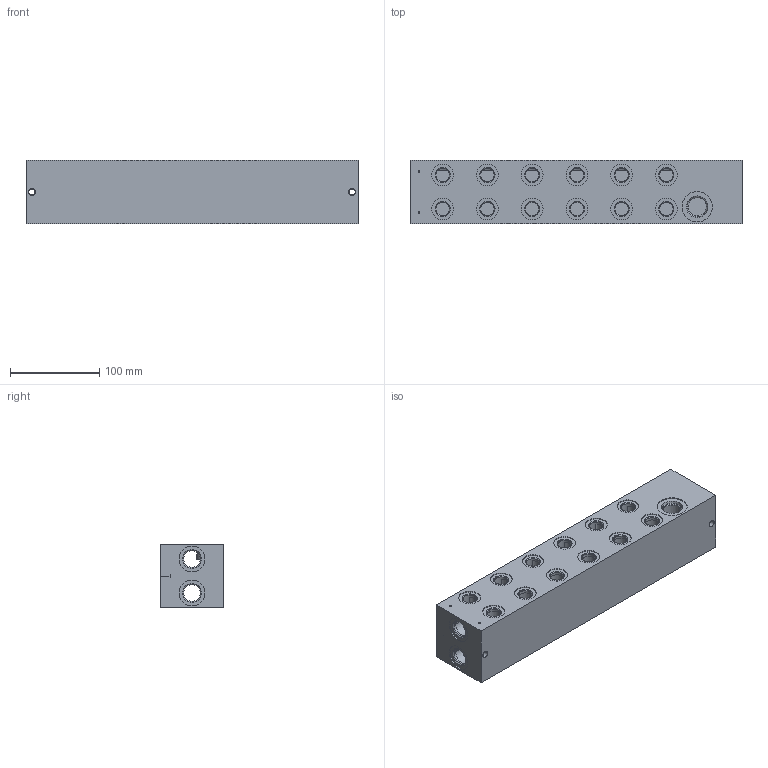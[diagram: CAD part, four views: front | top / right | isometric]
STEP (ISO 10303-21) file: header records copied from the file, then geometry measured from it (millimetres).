
FILE_DESCRIPTION((''),'2;1');
FILE_NAME('27564000','2015-11-27T',('Ahcz.brigadnik05'),(''),'PRO/ENGINEER BY PARAMETRIC TECHNOLOGY CORPORATION, 2015110','PRO/ENGINEER BY PARAMETRIC TECHNOLOGY CORPORATION, 2015110','');
FILE_SCHEMA(('AUTOMOTIVE_DESIGN { 1 0 10303 214 1 1 1 1 }'));
Length unit declared in the file: millimetre
Products named in the file (1): 27564000
Bounding box: 371 x 71 x 71 mm (x, y, z)
Volume: 612029 mm3; surface area: 232646.1 mm2
Topology: 1 solids, 49 shells, 418 faces, 1620 edges, 1596 vertices
Faces by surface type: cylinder 286, plane 82, cone 50
Entity records: 23791 total; most frequent: CARTESIAN_POINT 4825, DIRECTION 3028, ORIENTED_EDGE 2076, PRESENTATION_STYLE_ASSIGNMENT 1717, STYLED_ITEM 1717, CURVE_STYLE 1662, EDGE_CURVE 1134, AXIS2_PLACEMENT_3D 1079
